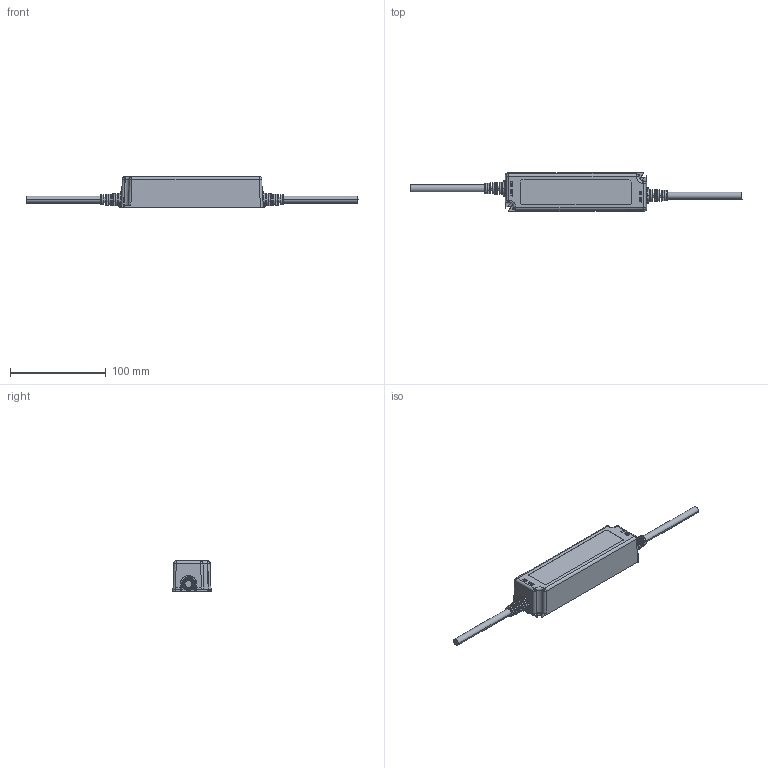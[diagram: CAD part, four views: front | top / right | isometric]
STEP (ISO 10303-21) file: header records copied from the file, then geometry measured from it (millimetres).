
FILE_DESCRIPTION(('OneSpaceDesigner STEP Export'),'2;1');
FILE_NAME('LPF-25-16.stp','2012-09-21T16:17:06',(''),(''),'OneSpace Designer STEP processor for AP214 (Solid Model)','OneSpace Designer 13.20 11-May-2005 (C) CoCreate Software GmbH','');
FILE_SCHEMA(('AUTOMOTIVE_DESIGN { 1 0 10303 214 1 1 1 1 }'));
Length unit declared in the file: millimetre
Products named in the file (6): xc2; LPF-16; PCB; xc1; LPF-25
Assembly tree (5 placements, depth 3):
  LPF-25
    xc1
    PCB
      PCB
    LPF-16
    xc2
Bounding box: 347.33 x 40 x 32.31 mm (x, y, z)
Volume: 59819.8 mm3; surface area: 62218.8 mm2
Topology: 4 solids, 4 shells, 1058 faces, 2945 edges, 1916 vertices
Faces by surface type: plane 780, cylinder 126, torus 68, bspline 64, sphere 10, cone 8, extrusion 2
Entity records: 38353 total; most frequent: CARTESIAN_POINT 12569, ORIENTED_EDGE 5854, DIRECTION 4553, EDGE_CURVE 2927, VECTOR 2133, LINE 2131, VERTEX_POINT 1916, AXIS2_PLACEMENT_3D 1210
